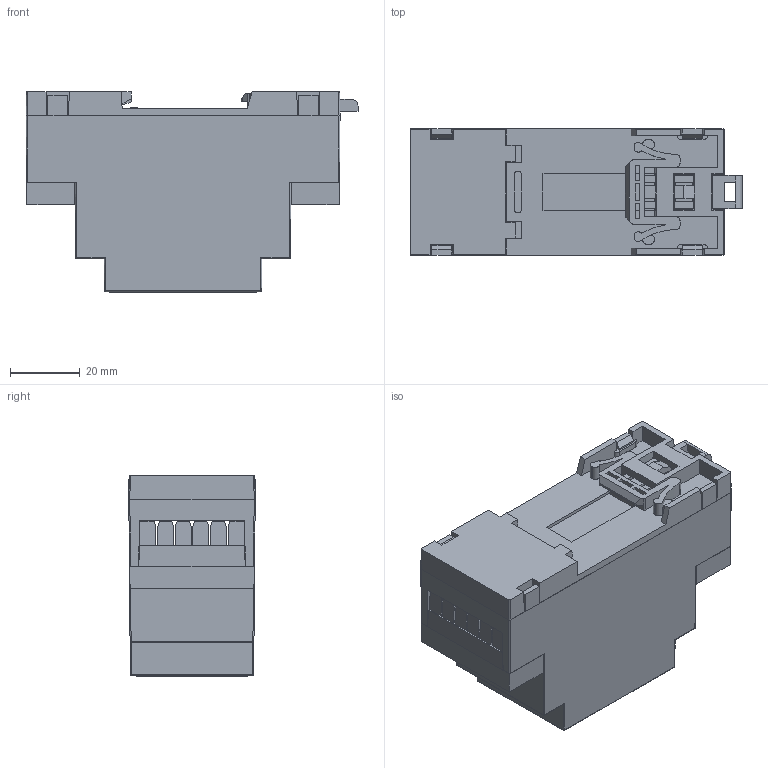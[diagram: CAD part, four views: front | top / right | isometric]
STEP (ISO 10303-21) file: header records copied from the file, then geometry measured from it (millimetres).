
FILE_DESCRIPTION(('STEP AP214'), '1');
FILE_NAME('ET-3301', '', ('UNSPECIFIED'), ('UNSPECIFIED'), 'ASCON STEP Converter 1.6', 'ASCON Math Kernel', '');
FILE_SCHEMA(('AUTOMOTIVE_DESIGN { 1 0 10303 214 3 1 1}'));
Length unit declared in the file: millimetre
Products named in the file (2): D2MG
Assembly tree (1 placements, depth 2):
  (unnamed)
    D2MG
Bounding box: 95.36 x 36.3 x 57.7 mm (x, y, z)
Volume: 32346.8 mm3; surface area: 49479.1 mm2
Topology: 17 solids, 17 shells, 2506 faces, 7008 edges, 4638 vertices
Faces by surface type: plane 1438, extrusion 903, cylinder 134, cone 12, sphere 10, bspline 9
Full cylindrical faces by diameter (mm): 1.5 x4, 3.2 x4, 3.5 x3, 4.2 x12
Entity records: 105546 total; most frequent: CARTESIAN_POINT 24175, ORIENTED_EDGE 13926, DIRECTION 9516, EDGE_CURVE 6963, VECTOR 5670, LINE 4767, VERTEX_POINT 4638, EDGE_LOOP 2799
